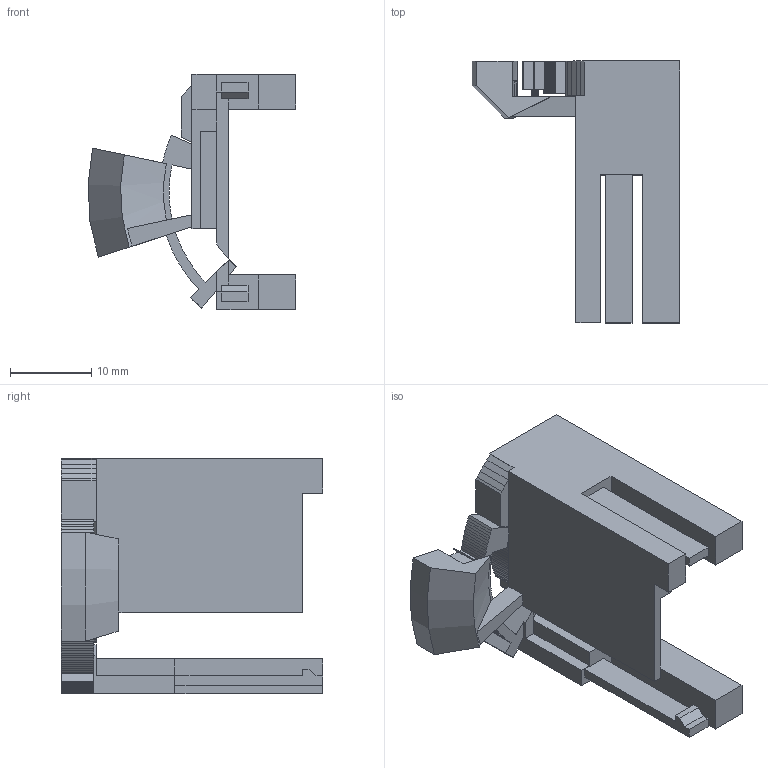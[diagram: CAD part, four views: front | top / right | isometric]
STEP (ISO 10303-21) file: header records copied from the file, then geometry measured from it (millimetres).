
FILE_DESCRIPTION(('Open CASCADE Model'),'2;1');
FILE_NAME('Open CASCADE Shape Model','2026-10-14T01:18:47',('Author'),( 'Open CASCADE'),'Open CASCADE STEP processor 8.0','build123d', 'Unknown');
FILE_SCHEMA(('AUTOMOTIVE_DESIGN { 1 0 10303 214 1 1 1 1 }'));
Length unit declared in the file: millimetre
Products named in the file (1): SOLID
Bounding box: 25.58 x 32.2 x 29 mm (x, y, z)
Volume: 3689.6 mm3; surface area: 4173.5 mm2
Topology: 1 solids, 1 shells, 398 faces, 1154 edges, 760 vertices
Faces by surface type: plane 381, cone 15, cylinder 2
Entity records: 27408 total; most frequent: CARTESIAN_POINT 5181, DIRECTION 3802, LINE 2937, VECTOR 2937, ORIENTED_EDGE 2308, PCURVE 2308, DEFINITIONAL_REPRESENTATION 2308, EDGE_CURVE 1154
